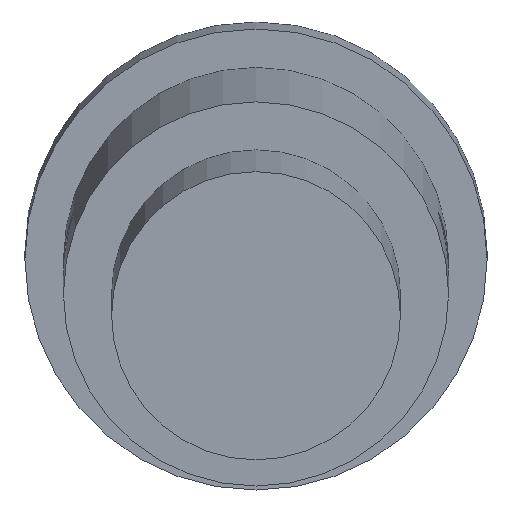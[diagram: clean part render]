
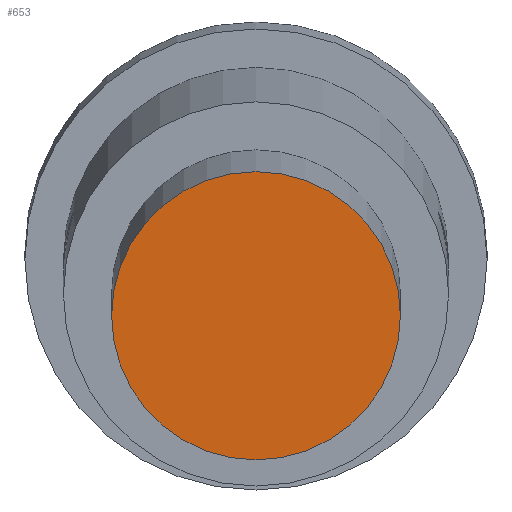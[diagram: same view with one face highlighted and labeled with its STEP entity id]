
A CAD part, front view. The second image highlights one B-rep face of the part: STEP entity #653.
In plain terms, the highlighted planar face has unit normal (0, -0.997, -0.073).
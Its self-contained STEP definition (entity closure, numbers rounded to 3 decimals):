
#560 = CYLINDRICAL_SURFACE('',#561,1.5);
#561 = AXIS2_PLACEMENT_3D('',#562,#563,#564);
#562 = CARTESIAN_POINT('',(41.5,-82.525,-56.307));
#563 = DIRECTION('',(0.,0.997,0.073));
#564 = DIRECTION('',(0.,-0.073,0.997));
#604 = VERTEX_POINT('',#605);
#605 = CARTESIAN_POINT('',(41.5,-82.635,-54.811));
#626 = EDGE_CURVE('',#604,#604,#627,.T.);
#627 = SURFACE_CURVE('',#628,(#633,#640),.PCURVE_S1.);
#628 = CIRCLE('',#629,1.5);
#629 = AXIS2_PLACEMENT_3D('',#630,#631,#632);
#630 = CARTESIAN_POINT('',(41.5,-82.525,-56.307));
#631 = DIRECTION('',(0.,0.997,0.073));
#632 = DIRECTION('',(0.,-0.073,0.997));
#633 = PCURVE('',#560,#634);
#634 = DEFINITIONAL_REPRESENTATION('',(#635),#639);
#635 = LINE('',#636,#637);
#636 = CARTESIAN_POINT('',(0.,0.));
#637 = VECTOR('',#638,1.);
#638 = DIRECTION('',(1.,0.));
#639 = ( GEOMETRIC_REPRESENTATION_CONTEXT(2) 
PARAMETRIC_REPRESENTATION_CONTEXT() REPRESENTATION_CONTEXT('2D SPACE',''
  ) );
#640 = PCURVE('',#641,#646);
#641 = PLANE('',#642);
#642 = AXIS2_PLACEMENT_3D('',#643,#644,#645);
#643 = CARTESIAN_POINT('',(41.5,-82.525,-56.307));
#644 = DIRECTION('',(0.,0.997,0.073));
#645 = DIRECTION('',(0.,-0.073,0.997));
#646 = DEFINITIONAL_REPRESENTATION('',(#647),#651);
#647 = CIRCLE('',#648,1.5);
#648 = AXIS2_PLACEMENT_2D('',#649,#650);
#649 = CARTESIAN_POINT('',(0.,0.));
#650 = DIRECTION('',(1.,0.));
#651 = ( GEOMETRIC_REPRESENTATION_CONTEXT(2) 
PARAMETRIC_REPRESENTATION_CONTEXT() REPRESENTATION_CONTEXT('2D SPACE',''
  ) );
#653 = ADVANCED_FACE('',(#654),#641,.F.);
#654 = FACE_BOUND('',#655,.T.);
#655 = EDGE_LOOP('',(#656));
#656 = ORIENTED_EDGE('',*,*,#626,.F.);
